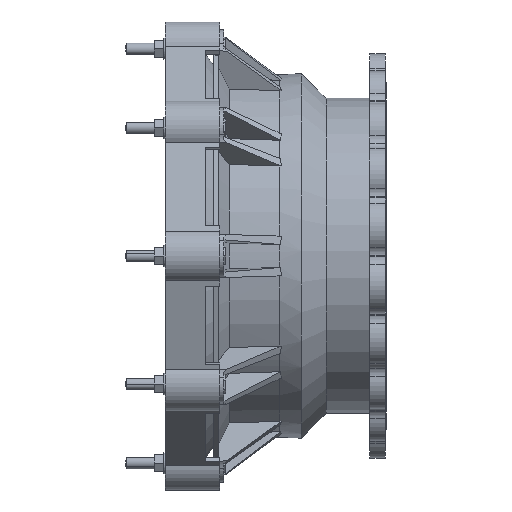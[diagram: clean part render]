
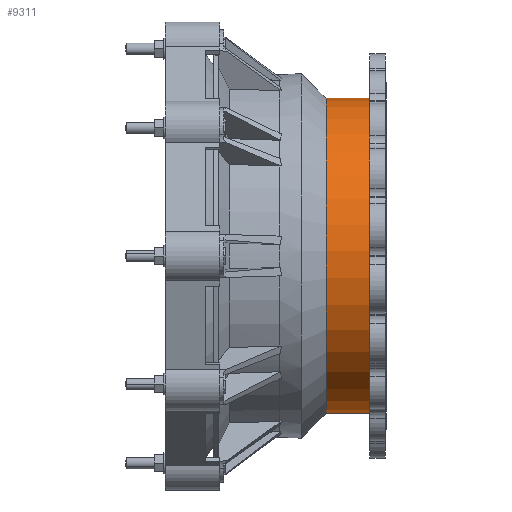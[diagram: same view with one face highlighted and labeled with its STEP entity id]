
A CAD part, left-side view. The second image highlights one B-rep face of the part: STEP entity #9311.
In plain terms, the highlighted cylindrical face has radius 276 mm (diameter 552 mm), a partial arc.
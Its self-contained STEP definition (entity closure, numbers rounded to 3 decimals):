
#2146=DIRECTION('',(0.,1.,0.));
#2147=VECTOR('',#2146,76.353);
#2148=CARTESIAN_POINT('',(262.492,-122.5,-85.289));
#2149=LINE('',#2148,#2147);
#2150=CARTESIAN_POINT('',(0.,-122.5,0.));
#2151=DIRECTION('',(0.,-1.,0.));
#2152=DIRECTION('',(0.951,0.,-0.309));
#2153=AXIS2_PLACEMENT_3D('',#2150,#2151,#2152);
#2155=DIRECTION('',(0.,-1.,0.));
#2156=VECTOR('',#2155,76.353);
#2157=CARTESIAN_POINT('',(162.229,-46.147,
-223.289));
#2158=LINE('',#2157,#2156);
#2182=CARTESIAN_POINT('',(0.,-46.147,0.));
#2183=DIRECTION('',(0.,-1.,0.));
#2184=DIRECTION('',(0.951,0.,-0.309));
#2185=AXIS2_PLACEMENT_3D('',#2182,#2183,#2184);
#6188=CARTESIAN_POINT('',(262.492,-122.5,-85.289));
#6189=CARTESIAN_POINT('',(262.492,-46.147,
-85.289));
#6190=VERTEX_POINT('',#6188);
#6191=VERTEX_POINT('',#6189);
#6196=CARTESIAN_POINT('',(162.229,-122.5,-223.289));
#6197=VERTEX_POINT('',#6196);
#6200=CARTESIAN_POINT('',(162.229,-46.147,
-223.289));
#6201=VERTEX_POINT('',#6200);
#9297=CARTESIAN_POINT('',(0.,165.,0.));
#9298=DIRECTION('',(0.,-1.,0.));
#9299=DIRECTION('',(-1.,0.,0.));
#9300=AXIS2_PLACEMENT_3D('',#9297,#9298,#9299);
#9301=CYLINDRICAL_SURFACE('',#9300,276.);
#9303=ORIENTED_EDGE('',*,*,#9302,.F.);
#9304=ORIENTED_EDGE('',*,*,#9051,.T.);
#9306=ORIENTED_EDGE('',*,*,#9305,.F.);
#9308=ORIENTED_EDGE('',*,*,#9307,.F.);
#9309=EDGE_LOOP('',(#9303,#9304,#9306,#9308));
#9310=FACE_OUTER_BOUND('',#9309,.F.);
#9311=ADVANCED_FACE('',(#9310),#9301,.T.);
#2154=CIRCLE('',#2153,276.);
#2186=CIRCLE('',#2185,276.);
#9051=EDGE_CURVE('',#6190,#6197,#2154,.T.);
#9302=EDGE_CURVE('',#6190,#6191,#2149,.T.);
#9305=EDGE_CURVE('',#6201,#6197,#2158,.T.);
#9307=EDGE_CURVE('',#6191,#6201,#2186,.T.);
